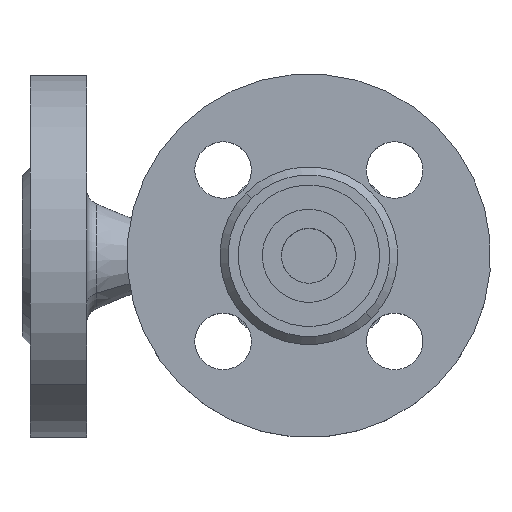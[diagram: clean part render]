
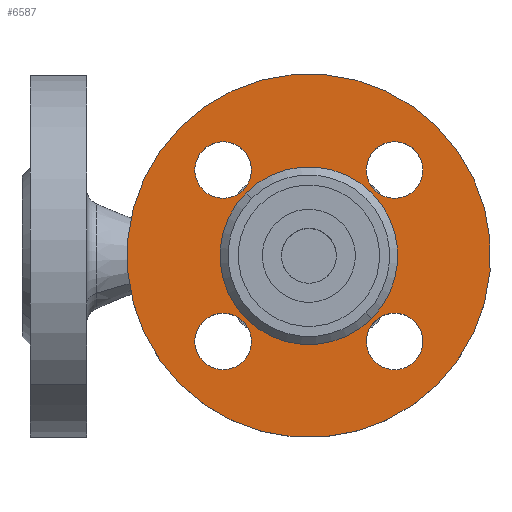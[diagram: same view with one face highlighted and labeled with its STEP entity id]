
A CAD part, top view. The second image highlights one B-rep face of the part: STEP entity #6587.
In plain terms, the highlighted planar face has unit normal (0, 0, 1) as drawn and (0, -1, 0) by its records, which use the part's own axes.
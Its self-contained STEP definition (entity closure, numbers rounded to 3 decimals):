
#352 = EDGE_CURVE ( 'NONE', #11371, #11593, #2252, .T. ) ;
#459 = VERTEX_POINT ( 'NONE', #3825 ) ;
#528 = EDGE_CURVE ( 'NONE', #4997, #13393, #4209, .T. ) ;
#698 = VERTEX_POINT ( 'NONE', #6840 ) ;
#709 = ORIENTED_EDGE ( 'NONE', *, *, #752, .T. ) ;
#728 = VERTEX_POINT ( 'NONE', #7339 ) ;
#752 = EDGE_CURVE ( 'NONE', #5016, #459, #7540, .T. ) ;
#766 = EDGE_CURVE ( 'NONE', #728, #698, #7990, .T. ) ;
#890 = VERTEX_POINT ( 'NONE', #9932 ) ;
#933 = ORIENTED_EDGE ( 'NONE', *, *, #12957, .T. ) ;
#1462 = CARTESIAN_POINT ( 'NONE',  ( -37., 2., 0. ) ) ;
#1518 = CARTESIAN_POINT ( 'NONE',  ( 23., 2., 0. ) ) ;
#1594 = ORIENTED_EDGE ( 'NONE', *, *, #9489, .T. ) ;
#1627 = CARTESIAN_POINT ( 'NONE',  ( 22., 2., 0. ) ) ;
#1975 = EDGE_LOOP ( 'NONE', ( #709, #2753 ) ) ;
#2252 = CIRCLE ( 'NONE', #2253, 7. ) ;
#2253 = AXIS2_PLACEMENT_3D ( 'NONE', #2256, #2257, #2258 ) ;
#2256 = CARTESIAN_POINT ( 'NONE',  ( 0., 2., -30. ) ) ;
#2257 = DIRECTION ( 'NONE',  ( 0., 1., 0. ) ) ;
#2258 = DIRECTION ( 'NONE',  ( -1., 0., 0. ) ) ;
#2507 = EDGE_CURVE ( 'NONE', #698, #728, #12956, .T. ) ;
#2692 = EDGE_LOOP ( 'NONE', ( #3571, #13012 ) ) ;
#2753 = ORIENTED_EDGE ( 'NONE', *, *, #13320, .T. ) ;
#3073 = ORIENTED_EDGE ( 'NONE', *, *, #10031, .T. ) ;
#3571 = ORIENTED_EDGE ( 'NONE', *, *, #766, .F. ) ;
#3825 = CARTESIAN_POINT ( 'NONE',  ( 37., 2., 0. ) ) ;
#4014 = FACE_BOUND ( 'NONE', #6426, .T. ) ;
#4015 = FACE_BOUND ( 'NONE', #5406, .T. ) ;
#4016 = FACE_BOUND ( 'NONE', #8418, .T. ) ;
#4017 = FACE_BOUND ( 'NONE', #1975, .T. ) ;
#4018 = FACE_OUTER_BOUND ( 'NONE', #2692, .T. ) ;
#4019 = FACE_BOUND ( 'NONE', #12958, .T. ) ;
#4020 = PLANE ( 'NONE',  #4021 ) ;
#4021 = AXIS2_PLACEMENT_3D ( 'NONE', #4022, #4023, #4025 ) ;
#4022 = CARTESIAN_POINT ( 'NONE',  ( 22., 2., 0. ) ) ;
#4023 = DIRECTION ( 'NONE',  ( 0., 1., 0. ) ) ;
#4025 = DIRECTION ( 'NONE',  ( -1., 0., 0. ) ) ;
#4209 = CIRCLE ( 'NONE', #4210, 7. ) ;
#4210 = AXIS2_PLACEMENT_3D ( 'NONE', #4211, #4212, #4213 ) ;
#4211 = CARTESIAN_POINT ( 'NONE',  ( -30., 2., 0. ) ) ;
#4212 = DIRECTION ( 'NONE',  ( 0., 1., 0. ) ) ;
#4213 = DIRECTION ( 'NONE',  ( -1., 0., 0. ) ) ;
#4997 = VERTEX_POINT ( 'NONE', #1462 ) ;
#5016 = VERTEX_POINT ( 'NONE', #1518 ) ;
#5117 = VERTEX_POINT ( 'NONE', #1627 ) ;
#5406 = EDGE_LOOP ( 'NONE', ( #7368, #8474 ) ) ;
#5841 = CARTESIAN_POINT ( 'NONE',  ( -22., 2., 0. ) ) ;
#6164 = CIRCLE ( 'NONE', #6165, 22. ) ;
#6165 = AXIS2_PLACEMENT_3D ( 'NONE', #6166, #6167, #6168 ) ;
#6166 = CARTESIAN_POINT ( 'NONE',  ( 0., 2., 0. ) ) ;
#6167 = DIRECTION ( 'NONE',  ( 0., 1., 0. ) ) ;
#6168 = DIRECTION ( 'NONE',  ( -1., 0., 0. ) ) ;
#6426 = EDGE_LOOP ( 'NONE', ( #8800, #6641 ) ) ;
#6587 = ADVANCED_FACE ( 'NONE', ( #4014, #4015, #4016, #4017, #4018, #4019 ), #4020, .F. ) ;
#6641 = ORIENTED_EDGE ( 'NONE', *, *, #11776, .T. ) ;
#6840 = CARTESIAN_POINT ( 'NONE',  ( 45., 2., 0. ) ) ;
#7299 = CIRCLE ( 'NONE', #7300, 7. ) ;
#7300 = AXIS2_PLACEMENT_3D ( 'NONE', #7301, #7302, #7303 ) ;
#7301 = CARTESIAN_POINT ( 'NONE',  ( 0., 2., 30. ) ) ;
#7302 = DIRECTION ( 'NONE',  ( 0., 1., 0. ) ) ;
#7303 = DIRECTION ( 'NONE',  ( -1., 0., 0. ) ) ;
#7339 = CARTESIAN_POINT ( 'NONE',  ( -45., 2., 0. ) ) ;
#7368 = ORIENTED_EDGE ( 'NONE', *, *, #528, .T. ) ;
#7403 = CIRCLE ( 'NONE', #7404, 7. ) ;
#7404 = AXIS2_PLACEMENT_3D ( 'NONE', #7407, #7408, #7409 ) ;
#7407 = CARTESIAN_POINT ( 'NONE',  ( 30., 2., 0. ) ) ;
#7408 = DIRECTION ( 'NONE',  ( 0., 1., 0. ) ) ;
#7409 = DIRECTION ( 'NONE',  ( -1., 0., 0. ) ) ;
#7530 = CARTESIAN_POINT ( 'NONE',  ( -23., 2., 0. ) ) ;
#7540 = CIRCLE ( 'NONE', #7541, 7. ) ;
#7541 = AXIS2_PLACEMENT_3D ( 'NONE', #7542, #7543, #7544 ) ;
#7542 = CARTESIAN_POINT ( 'NONE',  ( 30., 2., 0. ) ) ;
#7543 = DIRECTION ( 'NONE',  ( 0., 1., 0. ) ) ;
#7544 = DIRECTION ( 'NONE',  ( -1., 0., 0. ) ) ;
#7753 = VERTEX_POINT ( 'NONE', #5841 ) ;
#7990 = CIRCLE ( 'NONE', #7991, 45. ) ;
#7991 = AXIS2_PLACEMENT_3D ( 'NONE', #7992, #7993, #7994 ) ;
#7992 = CARTESIAN_POINT ( 'NONE',  ( 0., 2., 0. ) ) ;
#7993 = DIRECTION ( 'NONE',  ( 0., 1., 0. ) ) ;
#7994 = DIRECTION ( 'NONE',  ( -1., 0., 0. ) ) ;
#8418 = EDGE_LOOP ( 'NONE', ( #10087, #1594 ) ) ;
#8474 = ORIENTED_EDGE ( 'NONE', *, *, #10140, .T. ) ;
#8800 = ORIENTED_EDGE ( 'NONE', *, *, #352, .T. ) ;
#9489 = EDGE_CURVE ( 'NONE', #10826, #890, #9776, .T. ) ;
#9776 = CIRCLE ( 'NONE', #9777, 7. ) ;
#9777 = AXIS2_PLACEMENT_3D ( 'NONE', #9778, #9779, #9780 ) ;
#9778 = CARTESIAN_POINT ( 'NONE',  ( 0., 2., 30. ) ) ;
#9779 = DIRECTION ( 'NONE',  ( 0., 1., 0. ) ) ;
#9780 = DIRECTION ( 'NONE',  ( -1., 0., 0. ) ) ;
#9932 = CARTESIAN_POINT ( 'NONE',  ( -7., 2., 30. ) ) ;
#10031 = EDGE_CURVE ( 'NONE', #5117, #7753, #10219, .T. ) ;
#10087 = ORIENTED_EDGE ( 'NONE', *, *, #13249, .T. ) ;
#10140 = EDGE_CURVE ( 'NONE', #13393, #4997, #10287, .T. ) ;
#10219 = CIRCLE ( 'NONE', #10220, 22. ) ;
#10220 = AXIS2_PLACEMENT_3D ( 'NONE', #10221, #10222, #10223 ) ;
#10221 = CARTESIAN_POINT ( 'NONE',  ( 0., 2., 0. ) ) ;
#10222 = DIRECTION ( 'NONE',  ( 0., 1., 0. ) ) ;
#10223 = DIRECTION ( 'NONE',  ( -1., 0., 0. ) ) ;
#10287 = CIRCLE ( 'NONE', #10289, 7. ) ;
#10289 = AXIS2_PLACEMENT_3D ( 'NONE', #10290, #10291, #10292 ) ;
#10290 = CARTESIAN_POINT ( 'NONE',  ( -30., 2., 0. ) ) ;
#10291 = DIRECTION ( 'NONE',  ( 0., 1., 0. ) ) ;
#10292 = DIRECTION ( 'NONE',  ( -1., 0., 0. ) ) ;
#10826 = VERTEX_POINT ( 'NONE', #12146 ) ;
#11371 = VERTEX_POINT ( 'NONE', #12495 ) ;
#11593 = VERTEX_POINT ( 'NONE', #12730 ) ;
#11776 = EDGE_CURVE ( 'NONE', #11593, #11371, #12809, .T. ) ;
#12146 = CARTESIAN_POINT ( 'NONE',  ( 7., 2., 30. ) ) ;
#12495 = CARTESIAN_POINT ( 'NONE',  ( -7., 2., -30. ) ) ;
#12730 = CARTESIAN_POINT ( 'NONE',  ( 7., 2., -30. ) ) ;
#12809 = CIRCLE ( 'NONE', #12813, 7. ) ;
#12813 = AXIS2_PLACEMENT_3D ( 'NONE', #12814, #12815, #12816 ) ;
#12814 = CARTESIAN_POINT ( 'NONE',  ( 0., 2., -30. ) ) ;
#12815 = DIRECTION ( 'NONE',  ( 0., 1., 0. ) ) ;
#12816 = DIRECTION ( 'NONE',  ( -1., 0., 0. ) ) ;
#12956 = CIRCLE ( 'NONE', #12959, 45. ) ;
#12957 = EDGE_CURVE ( 'NONE', #7753, #5117, #6164, .T. ) ;
#12958 = EDGE_LOOP ( 'NONE', ( #933, #3073 ) ) ;
#12959 = AXIS2_PLACEMENT_3D ( 'NONE', #12960, #12961, #12962 ) ;
#12960 = CARTESIAN_POINT ( 'NONE',  ( 0., 2., 0. ) ) ;
#12961 = DIRECTION ( 'NONE',  ( 0., 1., 0. ) ) ;
#12962 = DIRECTION ( 'NONE',  ( -1., 0., 0. ) ) ;
#13012 = ORIENTED_EDGE ( 'NONE', *, *, #2507, .F. ) ;
#13249 = EDGE_CURVE ( 'NONE', #890, #10826, #7299, .T. ) ;
#13320 = EDGE_CURVE ( 'NONE', #459, #5016, #7403, .T. ) ;
#13393 = VERTEX_POINT ( 'NONE', #7530 ) ;
